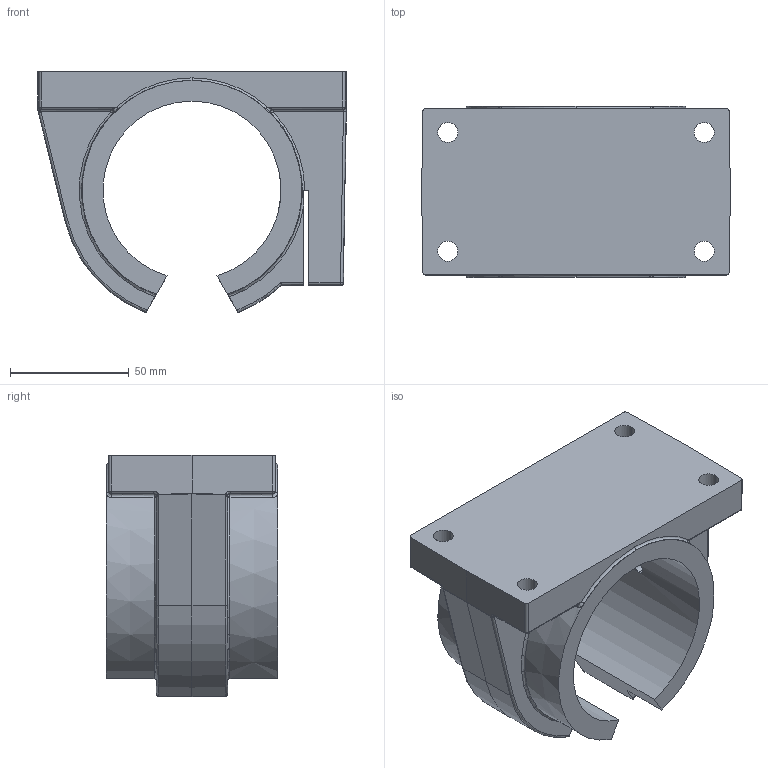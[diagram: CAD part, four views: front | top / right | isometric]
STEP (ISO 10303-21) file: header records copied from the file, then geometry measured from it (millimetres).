
FILE_DESCRIPTION (( 'STEP AP203' ), '1' );
FILE_NAME ('KGGOE68-50.step', '2020-03-10T16:15:31', ( '' ), ( '' ), 'SwSTEP 2.0', 'SolidWorks 2019', '' );
FILE_SCHEMA (( 'CONFIG_CONTROL_DESIGN' ));
Length unit declared in the file: millimetre
Products named in the file (2): KGGOE68-50
Bounding box: 129.98 x 72 x 101.46 mm (x, y, z)
Volume: 343183.8 mm3; surface area: 62765 mm2
Topology: 1 solids, 1 shells, 139 faces, 346 edges, 203 vertices
Faces by surface type: cylinder 52, plane 38, bspline 16, torus 12, sphere 12, cone 9
Entity records: 4760 total; most frequent: CARTESIAN_POINT 1436, ORIENTED_EDGE 676, DIRECTION 667, EDGE_CURVE 338, AXIS2_PLACEMENT_3D 270, VERTEX_POINT 203, EDGE_LOOP 155, CIRCLE 145
